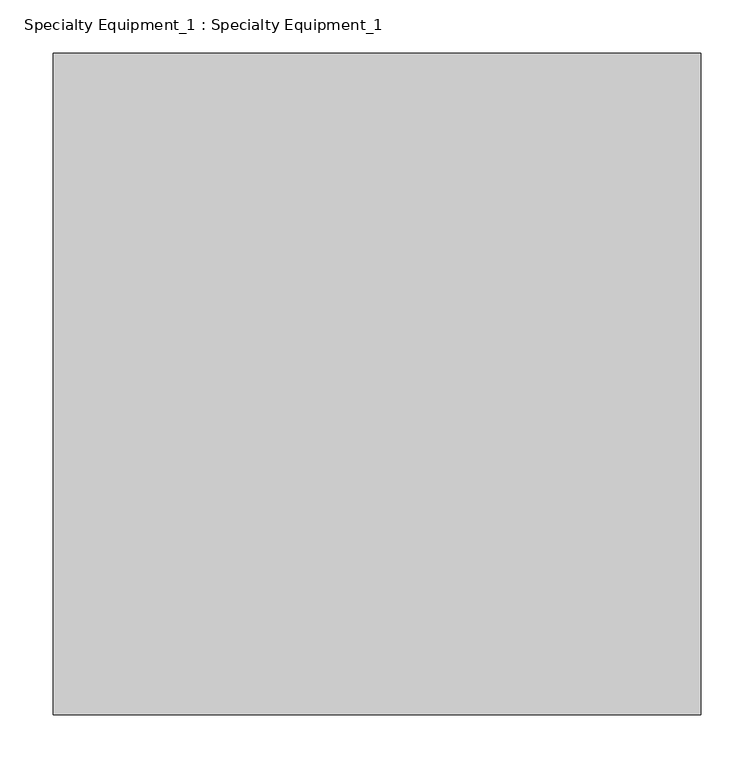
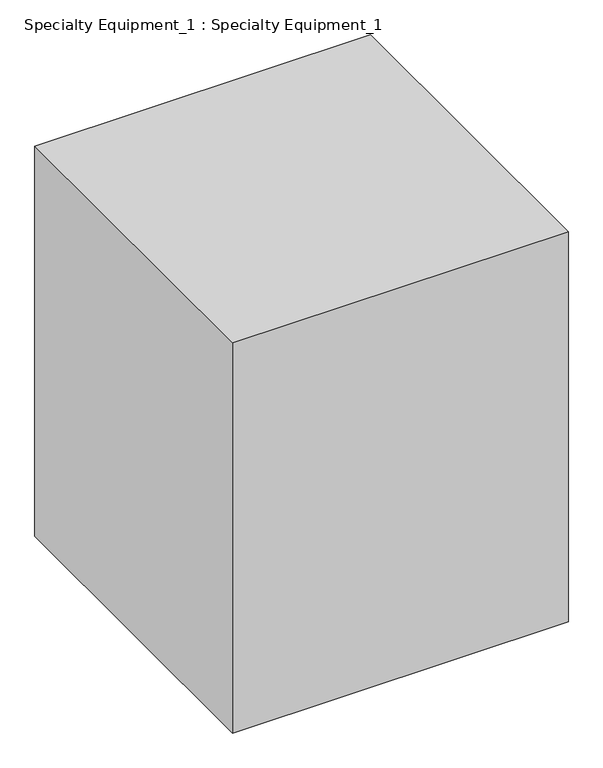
"""IFC4 building model written with IfcOpenShell, lengths in millimetres: proxy geometry, Specialty Equipment_1 : Specialty Equipment_1."""

from ifc_helpers import new_model, si_unit, origin, origin_with_axes, place, context, project, spatial, polyline, outline, extrude, source, transform, mapped, element, save


def specialty_equipment_1_specialty_equipment_1_22142bf9(model_context):
    return source(origin(), model_context, "Body", "SweptSolid", [
        extrude(outline(polyline([(304.8, 0.0), (304.8, -622.3), (-304.8, -622.3), (-304.8, 0.0), (304.8, 0.0)])), origin_with_axes(), (0.0, 0.0, 1.0), 749.3),
    ])


if __name__ == "__main__":
    model = new_model("IFC4")
    model_context = context("Model", 3, world=origin())
    ifc_project = project(units=[si_unit("LENGTHUNIT", "METRE", prefix="MILLI")], contexts=[model_context])
    site = spatial("IfcSite", under=ifc_project)
    building = spatial("IfcBuilding", under=site)
    placement = place(None, origin())
    specialty_equipment_1_specialty_equipment_1_shape = specialty_equipment_1_specialty_equipment_1_22142bf9(model_context)
    element("IfcBuildingElementProxy", 1, Name="Specialty Equipment_1 : Specialty Equipment_1", ObjectType="Specialty Equipment_1 : Specialty Equipment_1", at=placement, inside=building, context=model_context, shape_type="MappedRepresentation", body=[
        mapped(specialty_equipment_1_specialty_equipment_1_shape, transform((0.0, 0.0, 0.0), x_axis=(1.0, 0.0, 0.0), y_axis=(0.0, 1.0, 0.0), z_axis=(0.0, 0.0, 1.0))),
    ])
    save(model, "model.ifc")
